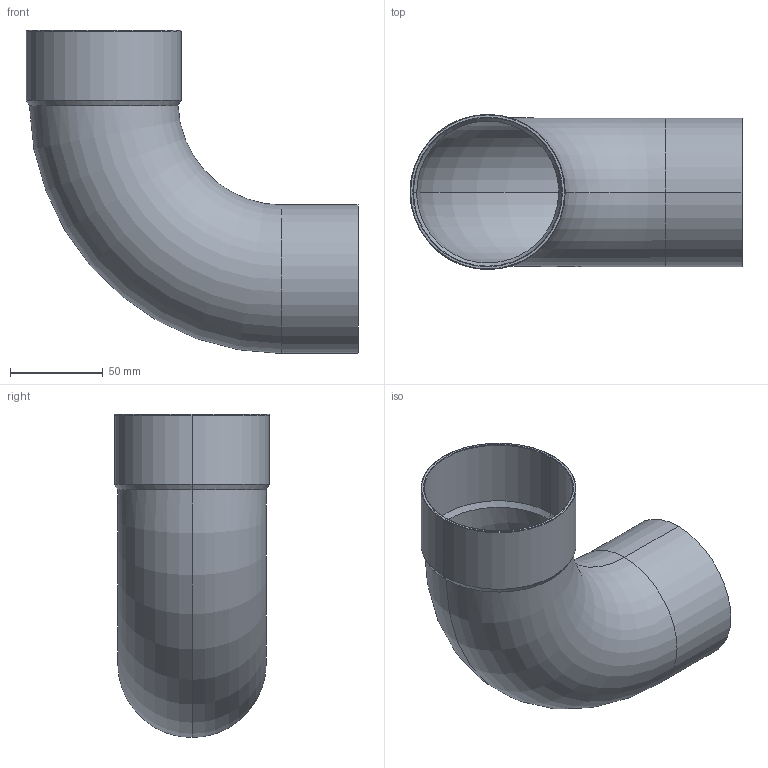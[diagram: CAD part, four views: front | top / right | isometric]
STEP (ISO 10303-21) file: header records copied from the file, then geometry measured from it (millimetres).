
FILE_DESCRIPTION((''),'2;1');
FILE_NAME('P:\Bouwmaten\z-maattekeningen 3D\5000\5001a\15001a80.stp','2005-10-04T15:04:04',('Kris'),(''),'Autodesk Inventor 8','Autodesk Inventor 8','');
FILE_SCHEMA(('AUTOMOTIVE_DESIGN { 1 0 10303 214 1 1 1 1 }'));
Length unit declared in the file: millimetre
Products named in the file (1): 15001a80
Bounding box: 178.8 x 83.6 x 174 mm (x, y, z)
Volume: 102602.5 mm3; surface area: 114842.9 mm2
Topology: 1 solids, 1 shells, 22 faces, 46 edges, 26 vertices
Faces by surface type: cone 8, cylinder 8, torus 4, plane 2
Entity records: 679 total; most frequent: CARTESIAN_POINT 171, DIRECTION 114, ORIENTED_EDGE 92, AXIS2_PLACEMENT_3D 49, EDGE_CURVE 46, VERTEX_POINT 26, CIRCLE 26, EDGE_LOOP 24
